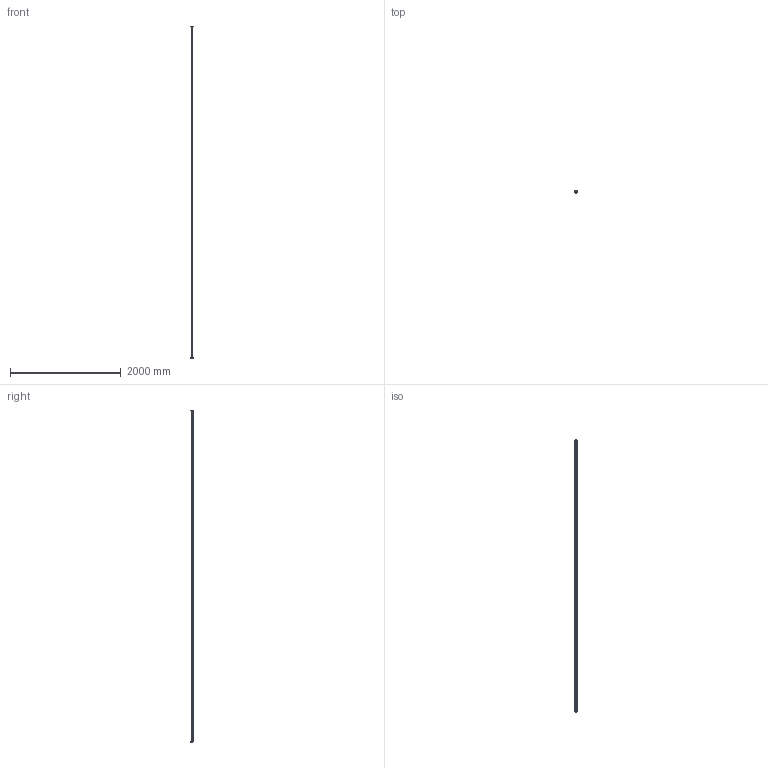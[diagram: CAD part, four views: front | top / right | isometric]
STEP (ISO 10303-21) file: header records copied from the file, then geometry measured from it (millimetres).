
FILE_DESCRIPTION((''),'2;1');
FILE_NAME('ROLLENSCHIENE_C','2021-12-23T04:11:35',('ac91sw'),(''),'CREO PARAMETRIC BY PTC INC, 2020044','CREO PARAMETRIC BY PTC INC, 2020044','');
FILE_SCHEMA(('AUTOMOTIVE_DESIGN { 1 0 10303 214 1 1 1 1 }'));
Length unit declared in the file: millimetre
Products named in the file (9): ROLLENSCHIENE_C_SKEL; ROLLENSCHIENE_C_RAIL1; ROLLENSCHIENE_C_BAND; R161933951_R_Z; R161933952_R_Z; 990000578_Z; 990000577_Z; R161933950_R_Z; ROLLENSCHIENE_C
Assembly tree (9 placements, depth 3):
  ROLLENSCHIENE_C
    ROLLENSCHIENE_C_SKEL
    ROLLENSCHIENE_C_RAIL1
    ROLLENSCHIENE_C_BAND
    R161933950_R_Z  x2
      R161933951_R_Z
      R161933952_R_Z
      990000578_Z
      990000577_Z
Bounding box: 42.99 x 42.5 x 6000.3 mm (x, y, z)
Volume: 4542769.4 mm3; surface area: 1368466.3 mm2
Topology: 10 solids, 10 shells, 1058 faces, 2889 edges, 2454 vertices
Faces by surface type: cylinder 694, plane 344, cone 12, torus 8
Entity records: 34037 total; most frequent: DIRECTION 5903, CARTESIAN_POINT 5595, ORIENTED_EDGE 4644, EDGE_CURVE 2322, AXIS2_PLACEMENT_3D 2306, VERTEX_POINT 1530, EDGE_LOOP 1414, CIRCLE 1300
